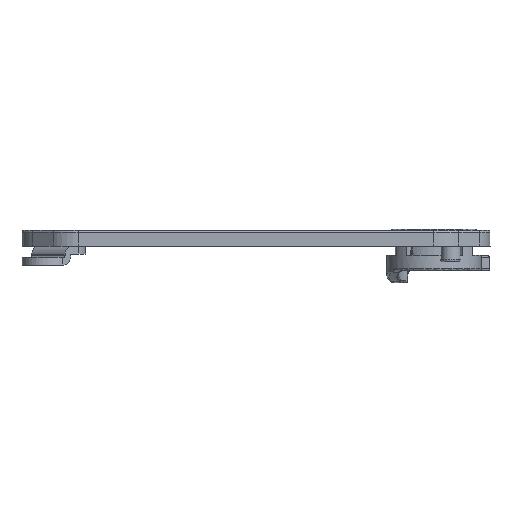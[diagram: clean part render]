
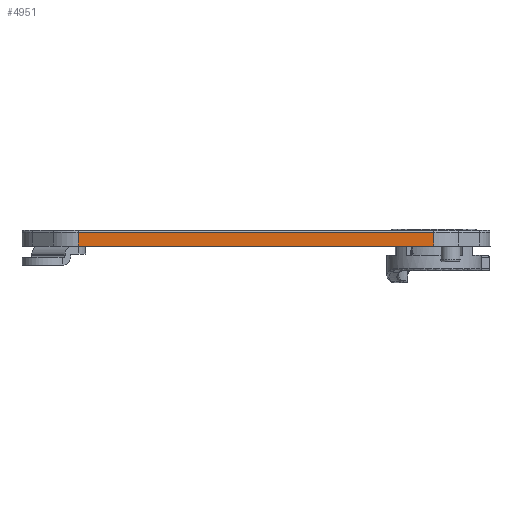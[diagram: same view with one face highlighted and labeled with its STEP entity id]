
A CAD part, front view. The second image highlights one B-rep face of the part: STEP entity #4951.
In plain terms, the highlighted planar face has unit normal (0, -1, 0).
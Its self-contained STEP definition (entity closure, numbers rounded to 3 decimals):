
#290=LINE('',#7731,#523);
#317=LINE('',#7868,#550);
#336=LINE('',#7974,#569);
#337=LINE('',#7976,#570);
#523=VECTOR('',#6195,1.);
#550=VECTOR('',#6338,1.);
#569=VECTOR('',#6487,1.);
#570=VECTOR('',#6490,1.);
#931=FACE_OUTER_BOUND('',#1235,.T.);
#1235=EDGE_LOOP('',(#3497,#3498,#3499,#3500));
#1921=VERTEX_POINT('',#7728);
#1922=VERTEX_POINT('',#7730);
#1973=VERTEX_POINT('',#7863);
#1974=VERTEX_POINT('',#7867);
#2428=EDGE_CURVE('',#1921,#1922,#290,.T.);
#2497=EDGE_CURVE('',#1974,#1973,#317,.F.);
#2551=EDGE_CURVE('',#1974,#1921,#336,.T.);
#2552=EDGE_CURVE('',#1973,#1922,#337,.T.);
#3497=ORIENTED_EDGE('',*,*,#2551,.F.);
#3498=ORIENTED_EDGE('',*,*,#2497,.T.);
#3499=ORIENTED_EDGE('',*,*,#2552,.T.);
#3500=ORIENTED_EDGE('',*,*,#2428,.F.);
#4499=PLANE('',#5444);
#4951=ADVANCED_FACE('',(#931),#4499,.F.);
#5444=AXIS2_PLACEMENT_3D('',#7975,#6488,#6489);
#6195=DIRECTION('',(-1.,0.,0.));
#6338=DIRECTION('',(1.,0.,0.));
#6487=DIRECTION('',(0.,0.,-1.));
#6488=DIRECTION('center_axis',(0.,1.,0.));
#6489=DIRECTION('ref_axis',(-1.,0.,0.));
#6490=DIRECTION('',(0.,0.,-1.));
#7728=CARTESIAN_POINT('',(45.217,-59.46,-4.));
#7730=CARTESIAN_POINT('',(-45.216,-59.46,-4.));
#7731=CARTESIAN_POINT('',(0.,-59.46,-4.));
#7863=CARTESIAN_POINT('',(-45.216,-59.46,-0.5));
#7867=CARTESIAN_POINT('',(45.217,-59.46,-0.5));
#7868=CARTESIAN_POINT('',(-45.216,-59.46,-0.5));
#7974=CARTESIAN_POINT('',(45.217,-59.46,0.));
#7975=CARTESIAN_POINT('Origin',(-45.216,-59.46,0.));
#7976=CARTESIAN_POINT('',(-45.216,-59.46,-2.25));
